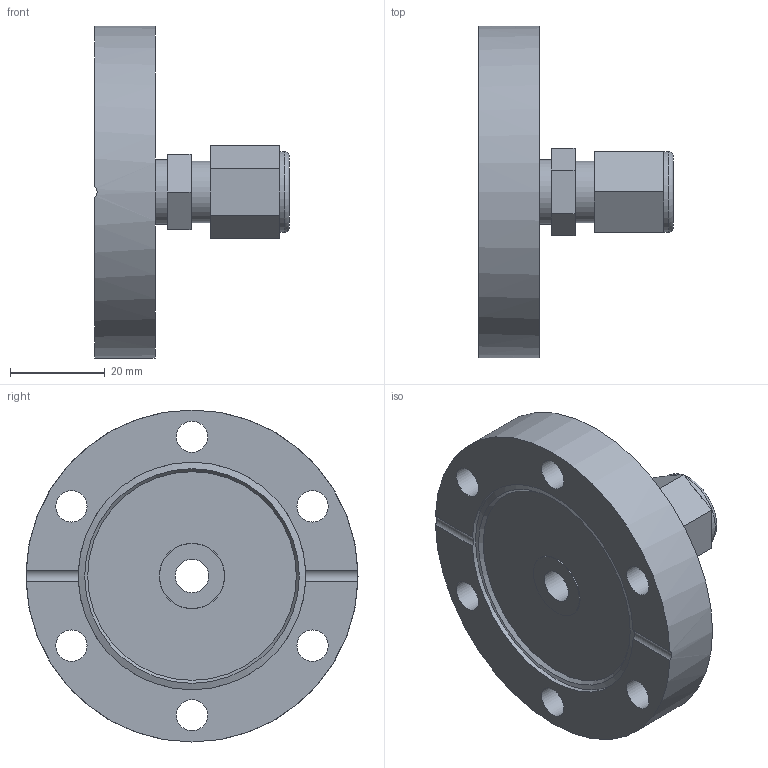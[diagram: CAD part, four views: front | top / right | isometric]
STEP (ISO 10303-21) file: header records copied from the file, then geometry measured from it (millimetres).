
FILE_DESCRIPTION( ( 'Unknown' ), '1' );
FILE_NAME( 'X:/Daten ( aktueller Bestand )/Projekte und Zeichnungen/Solid Edge/STP-Dateien/CF-Teile/7557-38.stp', 'Unknown', ( 'Unknown' ), ( 'Unknown' ), 'PSStep 14.0', 'Unknown', ' ' );
FILE_SCHEMA( ( 'AUTOMOTIVE_DESIGN { 1 0 10303 214 1 1 1 1 }' ) );
Length unit declared in the file: millimetre
Products named in the file (3): Assem1; 7552-6.1; 3-8x1-4
Assembly tree (2 placements, depth 2):
  Assem1
    7552-6.1
    3-8x1-4
Bounding box: 41 x 70 x 70 mm (x, y, z)
Volume: 48077.2 mm3; surface area: 15695.2 mm2
Topology: 2 solids, 2 shells, 47 faces, 115 edges, 76 vertices
Faces by surface type: plane 28, cylinder 16, cone 2, torus 1
Full cylindrical faces by diameter (mm): 6.6 x6, 7.1 x1, 9.52 x1, 13 x1, 13.7 x1, 13.8 x1, 17 x1, 48 x1, 70 x1
Entity records: 1732 total; most frequent: CARTESIAN_POINT 258, DIRECTION 224, ORIENTED_EDGE 178, AXIS2_PLACEMENT_3D 89, EDGE_CURVE 89, EDGE_LOOP 84, VERTEX_POINT 67, FACE_OUTER_BOUND 62
